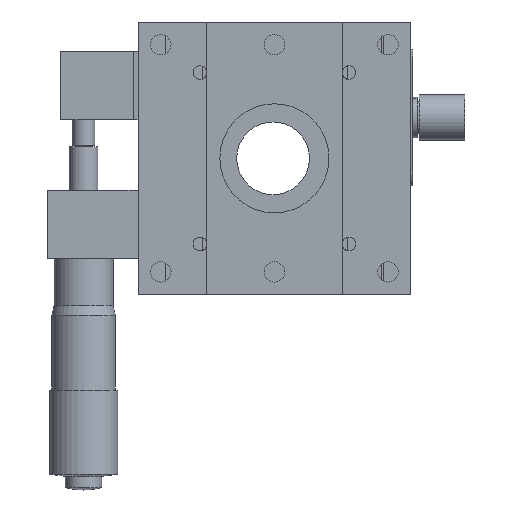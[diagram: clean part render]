
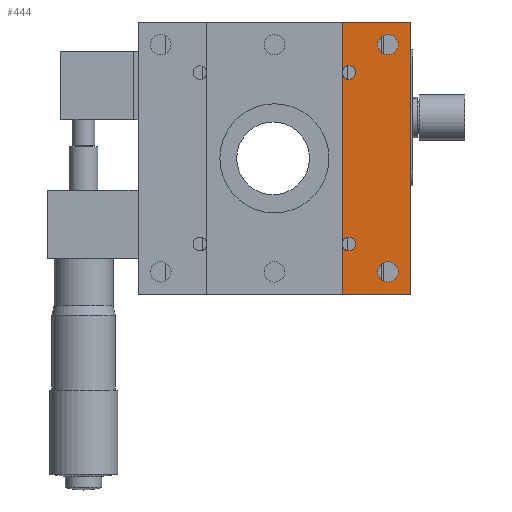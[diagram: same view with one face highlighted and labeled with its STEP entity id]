
A CAD part, front view. The second image highlights one B-rep face of the part: STEP entity #444.
In plain terms, the highlighted planar face has unit normal (0, -1, 0).
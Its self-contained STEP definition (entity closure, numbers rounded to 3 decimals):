
#444 = ADVANCED_FACE ( 'NONE', ( #4416, #4420, #4418 ), #4966, .F. ) ;
#534 = EDGE_CURVE ( 'NONE', #2798, #3446, #5518, .T. ) ;
#557 = EDGE_CURVE ( 'NONE', #2804, #2796, #5557, .T. ) ;
#856 = VERTEX_POINT ( 'NONE', #6206 ) ;
#2757 = EDGE_LOOP ( 'NONE', ( #3211, #3212 ) ) ;
#2762 = EDGE_LOOP ( 'NONE', ( #3209, #3210 ) ) ;
#2774 = EDGE_LOOP ( 'NONE', ( #3213, #3214, #3215, #3216, #3217, #3218, #3219, #3220, #3221, #3222 ) ) ;
#2796 = VERTEX_POINT ( 'NONE', #10699 ) ;
#2798 = VERTEX_POINT ( 'NONE', #10700 ) ;
#2804 = VERTEX_POINT ( 'NONE', #10706 ) ;
#2895 = VERTEX_POINT ( 'NONE', #10797 ) ;
#2896 = VERTEX_POINT ( 'NONE', #10798 ) ;
#2919 = VERTEX_POINT ( 'NONE', #10821 ) ;
#2920 = VERTEX_POINT ( 'NONE', #10822 ) ;
#3209 = ORIENTED_EDGE ( 'NONE', *, *, #3689, .T. ) ;
#3210 = ORIENTED_EDGE ( 'NONE', *, *, #3609, .T. ) ;
#3211 = ORIENTED_EDGE ( 'NONE', *, *, #3690, .T. ) ;
#3212 = ORIENTED_EDGE ( 'NONE', *, *, #3633, .T. ) ;
#3213 = ORIENTED_EDGE ( 'NONE', *, *, #3650, .T. ) ;
#3214 = ORIENTED_EDGE ( 'NONE', *, *, #3691, .T. ) ;
#3215 = ORIENTED_EDGE ( 'NONE', *, *, #534, .T. ) ;
#3216 = ORIENTED_EDGE ( 'NONE', *, *, #3687, .T. ) ;
#3217 = ORIENTED_EDGE ( 'NONE', *, *, #3692, .T. ) ;
#3218 = ORIENTED_EDGE ( 'NONE', *, *, #3693, .F. ) ;
#3219 = ORIENTED_EDGE ( 'NONE', *, *, #3694, .F. ) ;
#3220 = ORIENTED_EDGE ( 'NONE', *, *, #3653, .T. ) ;
#3221 = ORIENTED_EDGE ( 'NONE', *, *, #3695, .T. ) ;
#3222 = ORIENTED_EDGE ( 'NONE', *, *, #557, .T. ) ;
#3446 = VERTEX_POINT ( 'NONE', #10894 ) ;
#3451 = VERTEX_POINT ( 'NONE', #10899 ) ;
#3452 = VERTEX_POINT ( 'NONE', #10900 ) ;
#3463 = VERTEX_POINT ( 'NONE', #10911 ) ;
#3468 = VERTEX_POINT ( 'NONE', #10916 ) ;
#3471 = VERTEX_POINT ( 'NONE', #10919 ) ;
#3609 = EDGE_CURVE ( 'NONE', #2895, #2896, #10032, .T. ) ;
#3633 = EDGE_CURVE ( 'NONE', #2919, #2920, #10068, .T. ) ;
#3650 = EDGE_CURVE ( 'NONE', #2796, #856, #10099, .T. ) ;
#3653 = EDGE_CURVE ( 'NONE', #3451, #3452, #10105, .T. ) ;
#3687 = EDGE_CURVE ( 'NONE', #3446, #3468, #10159, .T. ) ;
#3689 = EDGE_CURVE ( 'NONE', #2896, #2895, #10162, .T. ) ;
#3690 = EDGE_CURVE ( 'NONE', #2920, #2919, #10164, .T. ) ;
#3691 = EDGE_CURVE ( 'NONE', #856, #2798, #10165, .T. ) ;
#3692 = EDGE_CURVE ( 'NONE', #3468, #3463, #10166, .T. ) ;
#3693 = EDGE_CURVE ( 'NONE', #3471, #3463, #10167, .T. ) ;
#3694 = EDGE_CURVE ( 'NONE', #3451, #3471, #10137, .T. ) ;
#3695 = EDGE_CURVE ( 'NONE', #3452, #2804, #10171, .T. ) ;
#4416 = FACE_BOUND ( 'NONE', #2762, .T. ) ;
#4418 = FACE_OUTER_BOUND ( 'NONE', #2774, .T. ) ;
#4420 = FACE_BOUND ( 'NONE', #2757, .T. ) ;
#4725 = AXIS2_PLACEMENT_3D ( 'NONE', #4964, #4954, #4968 ) ;
#4783 = AXIS2_PLACEMENT_3D ( 'NONE', #5220, #5221, #5222 ) ;
#4792 = AXIS2_PLACEMENT_3D ( 'NONE', #5274, #5275, #5276 ) ;
#4954 = DIRECTION ( 'NONE',  ( 0., 1., 0. ) ) ;
#4964 = CARTESIAN_POINT ( 'NONE',  ( 60., 0., 60. ) ) ;
#4966 = PLANE ( 'NONE',  #4725 ) ;
#4968 = DIRECTION ( 'NONE',  ( -1., 0., 0. ) ) ;
#5220 = CARTESIAN_POINT ( 'NONE',  ( 46.398, 0., 11.129 ) ) ;
#5221 = DIRECTION ( 'NONE',  ( 0., 1., 0. ) ) ;
#5222 = DIRECTION ( 'NONE',  ( -1., 0., 0. ) ) ;
#5274 = CARTESIAN_POINT ( 'NONE',  ( 46.398, 0., 48.871 ) ) ;
#5275 = DIRECTION ( 'NONE',  ( 0., 1., 0. ) ) ;
#5276 = DIRECTION ( 'NONE',  ( -1., 0., 0. ) ) ;
#5518 = CIRCLE ( 'NONE', #4783, 1.5 ) ;
#5557 = CIRCLE ( 'NONE', #4792, 1.5 ) ;
#6206 = CARTESIAN_POINT ( 'NONE',  ( 45., 0., 11.674 ) ) ;
#8529 = AXIS2_PLACEMENT_3D ( 'NONE', #11044, #11045, #11046 ) ;
#8541 = AXIS2_PLACEMENT_3D ( 'NONE', #11104, #11105, #11106 ) ;
#8562 = AXIS2_PLACEMENT_3D ( 'NONE', #11234, #11235, #11236 ) ;
#8563 = AXIS2_PLACEMENT_3D ( 'NONE', #11239, #11240, #11241 ) ;
#8564 = AXIS2_PLACEMENT_3D ( 'NONE', #11243, #11244, #11245 ) ;
#8565 = AXIS2_PLACEMENT_3D ( 'NONE', #11249, #11250, #11251 ) ;
#10032 = CIRCLE ( 'NONE', #8529, 2.25 ) ;
#10068 = CIRCLE ( 'NONE', #8541, 2.25 ) ;
#10099 = LINE ( 'NONE', #11143, #10102 ) ;
#10102 = VECTOR ( 'NONE', #11144, 1000. ) ;
#10105 = LINE ( 'NONE', #11148, #10108 ) ;
#10108 = VECTOR ( 'NONE', #11149, 1000. ) ;
#10137 = LINE ( 'NONE', #11242, #10172 ) ;
#10159 = LINE ( 'NONE', #11224, #10161 ) ;
#10161 = VECTOR ( 'NONE', #11225, 1000. ) ;
#10162 = CIRCLE ( 'NONE', #8562, 2.25 ) ;
#10164 = CIRCLE ( 'NONE', #8563, 2.25 ) ;
#10165 = CIRCLE ( 'NONE', #8564, 1.5 ) ;
#10166 = LINE ( 'NONE', #11237, #10168 ) ;
#10167 = LINE ( 'NONE', #11246, #10170 ) ;
#10168 = VECTOR ( 'NONE', #11238, 1000. ) ;
#10170 = VECTOR ( 'NONE', #11247, 1000. ) ;
#10171 = CIRCLE ( 'NONE', #8565, 1.5 ) ;
#10172 = VECTOR ( 'NONE', #11248, 1000. ) ;
#10699 = CARTESIAN_POINT ( 'NONE',  ( 45., 0., 48.326 ) ) ;
#10700 = CARTESIAN_POINT ( 'NONE',  ( 47.898, 0., 11.129 ) ) ;
#10706 = CARTESIAN_POINT ( 'NONE',  ( 47.898, 0., 48.871 ) ) ;
#10797 = CARTESIAN_POINT ( 'NONE',  ( 55., 0., 2.75 ) ) ;
#10798 = CARTESIAN_POINT ( 'NONE',  ( 55., 0., 7.25 ) ) ;
#10821 = CARTESIAN_POINT ( 'NONE',  ( 55., 0., 52.75 ) ) ;
#10822 = CARTESIAN_POINT ( 'NONE',  ( 55., 0., 57.25 ) ) ;
#10894 = CARTESIAN_POINT ( 'NONE',  ( 45., 0., 10.584 ) ) ;
#10899 = CARTESIAN_POINT ( 'NONE',  ( 45., 0., 60. ) ) ;
#10900 = CARTESIAN_POINT ( 'NONE',  ( 45., 0., 49.416 ) ) ;
#10911 = CARTESIAN_POINT ( 'NONE',  ( 60., 0., 0. ) ) ;
#10916 = CARTESIAN_POINT ( 'NONE',  ( 45., 0., 0. ) ) ;
#10919 = CARTESIAN_POINT ( 'NONE',  ( 60., 0., 60. ) ) ;
#11044 = CARTESIAN_POINT ( 'NONE',  ( 55., 0., 5. ) ) ;
#11045 = DIRECTION ( 'NONE',  ( 0., 1., 0. ) ) ;
#11046 = DIRECTION ( 'NONE',  ( 0., 0., 1. ) ) ;
#11104 = CARTESIAN_POINT ( 'NONE',  ( 55., 0., 55. ) ) ;
#11105 = DIRECTION ( 'NONE',  ( 0., 1., 0. ) ) ;
#11106 = DIRECTION ( 'NONE',  ( 0., 0., 1. ) ) ;
#11143 = CARTESIAN_POINT ( 'NONE',  ( 45., 0., 60. ) ) ;
#11144 = DIRECTION ( 'NONE',  ( 0., 0., -1. ) ) ;
#11148 = CARTESIAN_POINT ( 'NONE',  ( 45., 0., 60. ) ) ;
#11149 = DIRECTION ( 'NONE',  ( 0., 0., -1. ) ) ;
#11224 = CARTESIAN_POINT ( 'NONE',  ( 45., 0., 60. ) ) ;
#11225 = DIRECTION ( 'NONE',  ( 0., 0., -1. ) ) ;
#11234 = CARTESIAN_POINT ( 'NONE',  ( 55., 0., 5. ) ) ;
#11235 = DIRECTION ( 'NONE',  ( 0., 1., 0. ) ) ;
#11236 = DIRECTION ( 'NONE',  ( 0., 0., 1. ) ) ;
#11237 = CARTESIAN_POINT ( 'NONE',  ( 60., 0., 0. ) ) ;
#11238 = DIRECTION ( 'NONE',  ( 1., 0., 0. ) ) ;
#11239 = CARTESIAN_POINT ( 'NONE',  ( 55., 0., 55. ) ) ;
#11240 = DIRECTION ( 'NONE',  ( 0., 1., 0. ) ) ;
#11241 = DIRECTION ( 'NONE',  ( 0., 0., 1. ) ) ;
#11242 = CARTESIAN_POINT ( 'NONE',  ( 60., 0., 60. ) ) ;
#11243 = CARTESIAN_POINT ( 'NONE',  ( 46.398, 0., 11.129 ) ) ;
#11244 = DIRECTION ( 'NONE',  ( 0., 1., 0. ) ) ;
#11245 = DIRECTION ( 'NONE',  ( -1., 0., 0. ) ) ;
#11246 = CARTESIAN_POINT ( 'NONE',  ( 60., 0., 60. ) ) ;
#11247 = DIRECTION ( 'NONE',  ( 0., 0., -1. ) ) ;
#11248 = DIRECTION ( 'NONE',  ( 1., 0., 0. ) ) ;
#11249 = CARTESIAN_POINT ( 'NONE',  ( 46.398, 0., 48.871 ) ) ;
#11250 = DIRECTION ( 'NONE',  ( 0., 1., 0. ) ) ;
#11251 = DIRECTION ( 'NONE',  ( -1., 0., 0. ) ) ;
